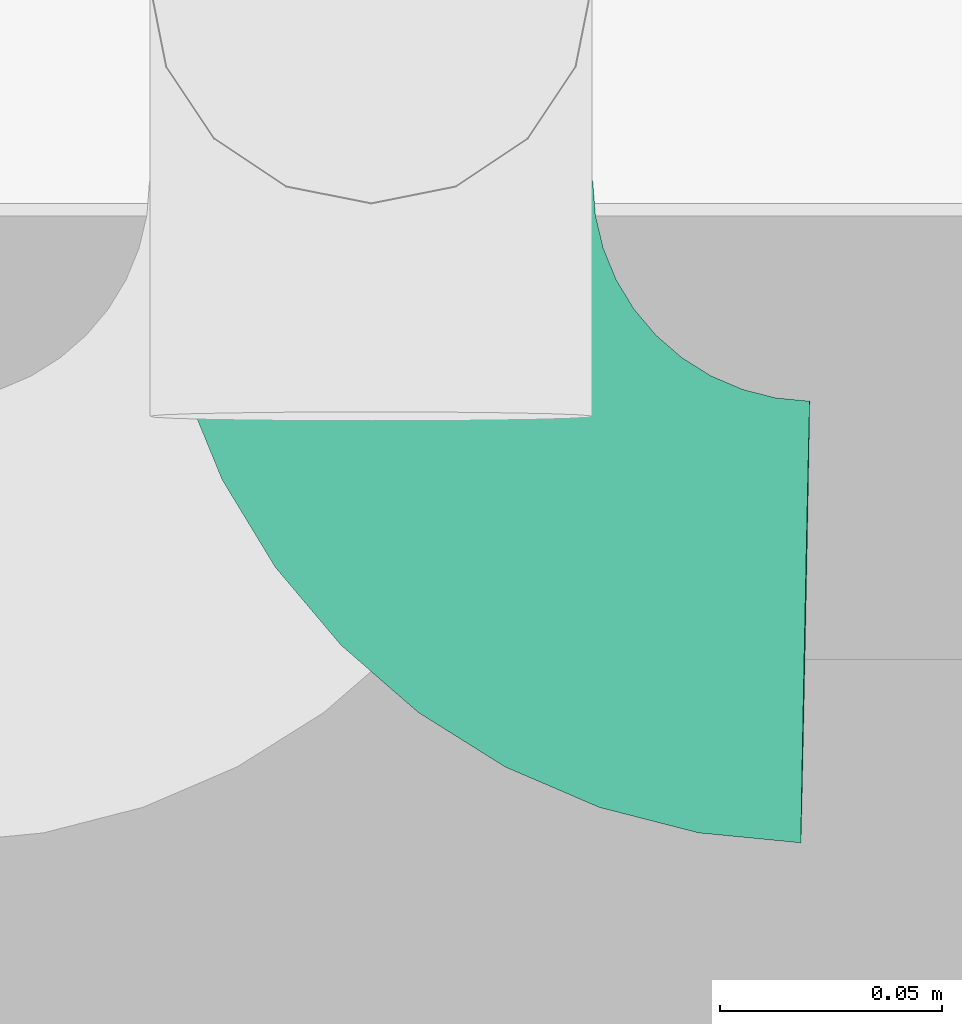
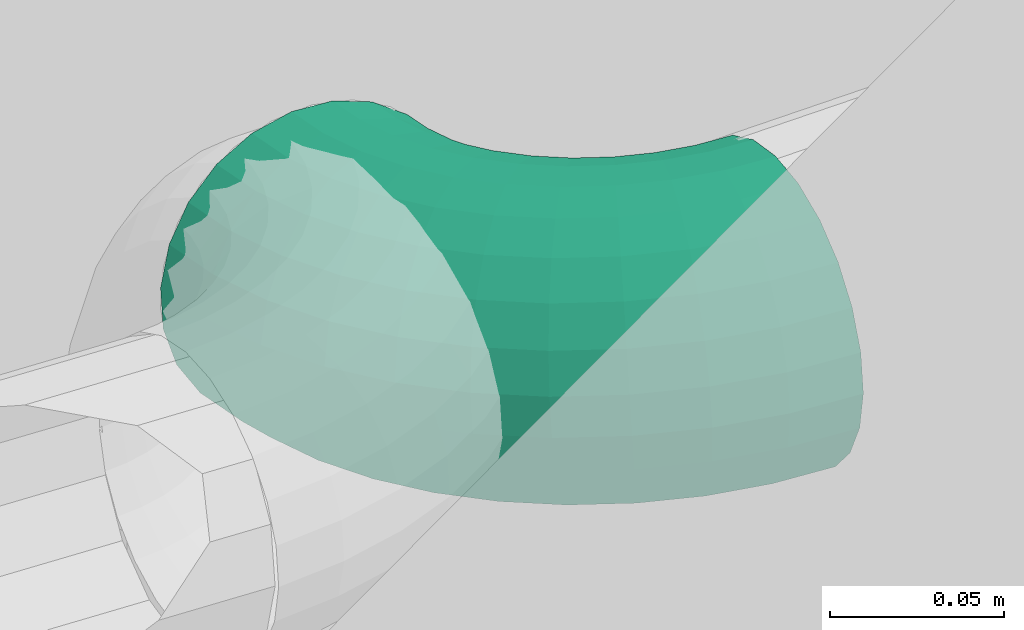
# One storey, part 99 of 106: 1 flow fitting.
"""IFC2X3 building model written with IfcOpenShell, lengths in metres."""

from ifc_helpers import new_model, entity, si_unit, converted_unit, derived_unit, money_unit, direction, frame, origin_with_axes, place, context, subcontext, project, spatial, open_shell, surface_model, material, type_object, element, save


model = new_model("IFC2X3")

# Units and contexts
model_context = context("Model", 3, precision=1e-05, world=origin_with_axes(), true_north=direction((0.0, 1.0)))
body_context = subcontext(model_context, "Body", "Model", "MODEL_VIEW", scale=1.0)
ifc_project = project(units=[si_unit("LENGTHUNIT", "METRE"), si_unit("AREAUNIT", "SQUARE_METRE"), si_unit("VOLUMEUNIT", "CUBIC_METRE"), si_unit("ABSORBEDDOSEUNIT", "GRAY"), si_unit("AMOUNTOFSUBSTANCEUNIT", "MOLE"), si_unit("DOSEEQUIVALENTUNIT", "SIEVERT"), si_unit("ELECTRICCAPACITANCEUNIT", "FARAD"), si_unit("ELECTRICCHARGEUNIT", "COULOMB"), si_unit("ELECTRICCONDUCTANCEUNIT", "SIEMENS"), si_unit("ELECTRICCURRENTUNIT", "AMPERE"), si_unit("ELECTRICRESISTANCEUNIT", "OHM"), si_unit("ELECTRICVOLTAGEUNIT", "VOLT"), si_unit("ENERGYUNIT", "JOULE"), si_unit("FORCEUNIT", "NEWTON"), si_unit("FREQUENCYUNIT", "HERTZ"), si_unit("ILLUMINANCEUNIT", "LUX"), si_unit("INDUCTANCEUNIT", "HENRY"), si_unit("LUMINOUSFLUXUNIT", "LUMEN"), si_unit("LUMINOUSINTENSITYUNIT", "CANDELA"), si_unit("MAGNETICFLUXDENSITYUNIT", "TESLA"), si_unit("MAGNETICFLUXUNIT", "WEBER"), si_unit("MASSUNIT", "GRAM"), converted_unit("PLANEANGLEUNIT", "degree", entity("IfcReal", 0.0174532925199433), si_unit("PLANEANGLEUNIT", "RADIAN"), dimensions=[0, 0, 0, 0, 0, 0, 0]), si_unit("POWERUNIT", "WATT"), si_unit("PRESSUREUNIT", "PASCAL"), si_unit("RADIOACTIVITYUNIT", "BECQUEREL"), si_unit("SOLIDANGLEUNIT", "STERADIAN"), si_unit("THERMODYNAMICTEMPERATUREUNIT", "KELVIN"), si_unit("TIMEUNIT", "SECOND"), derived_unit("ACCELERATIONUNIT", [(si_unit("LENGTHUNIT", "METRE"), 1), (si_unit("TIMEUNIT", "SECOND"), -2)]), derived_unit("ANGULARVELOCITYUNIT", [(converted_unit("PLANEANGLEUNIT", "degree", entity("IfcReal", 0.0174532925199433), si_unit("PLANEANGLEUNIT", "RADIAN"), dimensions=[0, 0, 0, 0, 0, 0, 0]), 1), (si_unit("TIMEUNIT", "SECOND"), -1)]), derived_unit("CURVATUREUNIT", [(converted_unit("PLANEANGLEUNIT", "degree", entity("IfcReal", 0.0174532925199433), si_unit("PLANEANGLEUNIT", "RADIAN"), dimensions=[0, 0, 0, 0, 0, 0, 0]), 1), (si_unit("LENGTHUNIT", "METRE"), -1)]), derived_unit("DYNAMICVISCOSITYUNIT", [(si_unit("PRESSUREUNIT", "PASCAL"), 1), (si_unit("TIMEUNIT", "SECOND"), 1)]), derived_unit("HEATFLUXDENSITYUNIT", [(si_unit("POWERUNIT", "WATT"), 1), (si_unit("LENGTHUNIT", "METRE"), -2)]), derived_unit("HEATINGVALUEUNIT", [(si_unit("ENERGYUNIT", "JOULE"), 1), (si_unit("MASSUNIT", "GRAM"), -1)]), derived_unit("INTEGERCOUNTRATEUNIT", [(si_unit("TIMEUNIT", "SECOND"), -1)]), derived_unit("IONCONCENTRATIONUNIT", [(si_unit("MASSUNIT", "GRAM"), 1), (si_unit("VOLUMEUNIT", "CUBIC_METRE"), -1)]), derived_unit("ISOTHERMALMOISTURECAPACITYUNIT", [(si_unit("VOLUMEUNIT", "CUBIC_METRE"), 1), (si_unit("MASSUNIT", "GRAM"), -1)]), derived_unit("KINEMATICVISCOSITYUNIT", [(si_unit("AREAUNIT", "SQUARE_METRE"), 1), (si_unit("TIMEUNIT", "SECOND"), -1)]), derived_unit("LINEARFORCEUNIT", [(si_unit("FORCEUNIT", "NEWTON"), 1), (si_unit("LENGTHUNIT", "METRE"), -1)]), derived_unit("LINEARMOMENTUNIT", [(si_unit("FORCEUNIT", "NEWTON"), 1), (si_unit("LENGTHUNIT", "METRE"), -1)]), derived_unit("LINEARSTIFFNESSUNIT", [(si_unit("FORCEUNIT", "NEWTON"), 1), (si_unit("LENGTHUNIT", "METRE"), -1)]), derived_unit("LINEARVELOCITYUNIT", [(si_unit("LENGTHUNIT", "METRE"), 1), (si_unit("TIMEUNIT", "SECOND"), -1)]), derived_unit("LUMINOUSINTENSITYDISTRIBUTIONUNIT", [(si_unit("LUMINOUSINTENSITYUNIT", "CANDELA"), 1), (si_unit("LUMINOUSFLUXUNIT", "LUMEN"), -1)]), derived_unit("MASSDENSITYUNIT", [(si_unit("MASSUNIT", "GRAM"), 1), (si_unit("VOLUMEUNIT", "CUBIC_METRE"), -1)]), derived_unit("MASSFLOWRATEUNIT", [(si_unit("MASSUNIT", "GRAM"), 1), (si_unit("TIMEUNIT", "SECOND"), -1)]), derived_unit("MASSPERLENGTHUNIT", [(si_unit("MASSUNIT", "GRAM"), 1), (si_unit("LENGTHUNIT", "METRE"), -1)]), derived_unit("MODULUSOFELASTICITYUNIT", [(si_unit("FORCEUNIT", "NEWTON"), 1), (si_unit("AREAUNIT", "SQUARE_METRE"), -1)]), derived_unit("MODULUSOFLINEARSUBGRADEREACTIONUNIT", [(si_unit("FORCEUNIT", "NEWTON"), 1), (si_unit("LENGTHUNIT", "METRE"), -2)]), derived_unit("MODULUSOFROTATIONALSUBGRADEREACTIONUNIT", [(si_unit("FORCEUNIT", "NEWTON"), 1), (si_unit("LENGTHUNIT", "METRE"), 1)]), derived_unit("MODULUSOFSUBGRADEREACTIONUNIT", [(si_unit("FORCEUNIT", "NEWTON"), 1), (si_unit("VOLUMEUNIT", "CUBIC_METRE"), -1)]), derived_unit("MOISTUREDIFFUSIVITYUNIT", [(si_unit("VOLUMEUNIT", "CUBIC_METRE"), 1), (si_unit("TIMEUNIT", "SECOND"), -1)]), derived_unit("MOLECULARWEIGHTUNIT", [(si_unit("MASSUNIT", "GRAM"), 1), (si_unit("AMOUNTOFSUBSTANCEUNIT", "MOLE"), -1)]), derived_unit("PLANARFORCEUNIT", [(si_unit("FORCEUNIT", "NEWTON"), 1), (si_unit("LENGTHUNIT", "METRE"), -2)]), derived_unit("ROTATIONALFREQUENCYUNIT", [(si_unit("TIMEUNIT", "SECOND"), -1)]), derived_unit("ROTATIONALMASSUNIT", [(si_unit("MASSUNIT", "GRAM"), 1), (si_unit("LENGTHUNIT", "METRE"), 2)]), derived_unit("ROTATIONALSTIFFNESSUNIT", [(si_unit("FORCEUNIT", "NEWTON"), 1), (si_unit("LENGTHUNIT", "METRE"), 1), (converted_unit("PLANEANGLEUNIT", "degree", entity("IfcReal", 0.0174532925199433), si_unit("PLANEANGLEUNIT", "RADIAN"), dimensions=[0, 0, 0, 0, 0, 0, 0]), -1)]), derived_unit("SECTIONAREAINTEGRALUNIT", [(si_unit("LENGTHUNIT", "METRE"), 5)]), derived_unit("SECTIONMODULUSUNIT", [(si_unit("LENGTHUNIT", "METRE"), 3)]), derived_unit("SHEARMODULUSUNIT", [(si_unit("FORCEUNIT", "NEWTON"), 1), (si_unit("AREAUNIT", "SQUARE_METRE"), -1)]), derived_unit("SOUNDPOWERUNIT", [(si_unit("ENERGYUNIT", "JOULE"), 1), (si_unit("TIMEUNIT", "SECOND"), -1)]), derived_unit("SPECIFICHEATCAPACITYUNIT", [(si_unit("FORCEUNIT", "NEWTON"), 1), (si_unit("MASSUNIT", "GRAM"), -1), (si_unit("THERMODYNAMICTEMPERATUREUNIT", "KELVIN"), -1)]), derived_unit("TEMPERATUREGRADIENTUNIT", [(si_unit("THERMODYNAMICTEMPERATUREUNIT", "KELVIN"), 1), (si_unit("LENGTHUNIT", "METRE"), -1)]), derived_unit("THERMALADMITTANCEUNIT", [(si_unit("POWERUNIT", "WATT"), 1), (si_unit("AREAUNIT", "SQUARE_METRE"), -1), (si_unit("THERMODYNAMICTEMPERATUREUNIT", "KELVIN"), -1)]), derived_unit("THERMALCONDUCTANCEUNIT", [(si_unit("POWERUNIT", "WATT"), 1), (si_unit("LENGTHUNIT", "METRE"), -1), (si_unit("THERMODYNAMICTEMPERATUREUNIT", "KELVIN"), -1)]), derived_unit("THERMALEXPANSIONCOEFFICIENTUNIT", [(si_unit("THERMODYNAMICTEMPERATUREUNIT", "KELVIN"), -1)]), derived_unit("THERMALRESISTANCEUNIT", [(si_unit("AREAUNIT", "SQUARE_METRE"), 1), (si_unit("POWERUNIT", "WATT"), -1)]), derived_unit("THERMALTRANSMITTANCEUNIT", [(si_unit("POWERUNIT", "WATT"), 1), (si_unit("AREAUNIT", "SQUARE_METRE"), -1), (si_unit("THERMODYNAMICTEMPERATUREUNIT", "KELVIN"), -1)]), derived_unit("TORQUEUNIT", [(si_unit("FORCEUNIT", "NEWTON"), 1), (si_unit("LENGTHUNIT", "METRE"), 1)]), derived_unit("VAPORPERMEABILITYUNIT", [(si_unit("MASSUNIT", "GRAM"), 1), (si_unit("TIMEUNIT", "SECOND"), -1)]), derived_unit("VOLUMETRICFLOWRATEUNIT", [(si_unit("VOLUMEUNIT", "CUBIC_METRE"), 1), (si_unit("TIMEUNIT", "SECOND"), -1)]), derived_unit("WARPINGCONSTANTUNIT", [(si_unit("LENGTHUNIT", "METRE"), 6)]), derived_unit("WARPINGMOMENTUNIT", [(si_unit("FORCEUNIT", "NEWTON"), 1), (si_unit("LENGTHUNIT", "METRE"), 2)]), money_unit("GBP")], contexts=[model_context])

# Site, building, storey
site_placement = place(None, origin_with_axes())
site = spatial("IfcSite", under=ifc_project, at=site_placement, Name="Site", CompositionType="ELEMENT")
building_placement = place(site_placement, origin_with_axes())
building = spatial("IfcBuilding", under=site, at=building_placement, Name="Building01", CompositionType="ELEMENT")
storey_placement = place(building_placement, origin_with_axes())
storey = spatial("IfcBuildingStorey", under=building, at=storey_placement, Name="GF", CompositionType="ELEMENT", Elevation=0.0)

# Flow fitting
ifc_material = material(Name="M_BSUK_ColdWater")
pipe_fitting_type = type_object("IfcPipeFittingType", Name="M-BmpElbow-DefaultElbow", PredefinedType="BEND")
flow_fitting_placement = place(storey_placement, frame((22.216022, 14.905103, 15.429205), z_axis=(-1.0, 0.0, 0.0), x_axis=(0.0, 0.99414865, -0.10802068)))
element("IfcFlowFitting", 1, at=flow_fitting_placement, inside=storey, type_object=pipe_fitting_type, material=ifc_material, Name="M-BmpElbow-DefaultElbow", ObjectType="M-BmpElbow-DefaultElbow", context=body_context, shape_type="SurfaceModel", body=[
    surface_model("IfcShellBasedSurfaceModel", [(-0.008009, -0.01349, -0.048768), (0.0, -0.01349, -0.048146), (0.0, 0.0, -0.05), (-0.007723, 0.0, -0.0506), (-0.015826, -0.01349, -0.05062), (-0.015261, 0.0, -0.052386), (-0.023264, -0.01349, -0.053657), (-0.022432, 0.0, -0.055314), (-0.030143, -0.01349, -0.057807), (-0.029065, 0.0, -0.059315), (-0.036298, -0.01349, -0.062969), (-0.035, 0.0, -0.064293), (-0.041582, -0.01349, -0.06902), (-0.040095, 0.0, -0.070127), (-0.045868, -0.01349, -0.075814), (-0.044228, 0.0, -0.076679), (-0.049054, -0.01349, -0.083189), (-0.0473, 0.0, -0.08379), (-0.051061, -0.01349, -0.090968), (-0.049236, 0.0, -0.091291), (-0.051844, -0.01349, -0.098963), (-0.04999, 0.0, -0.099), (-0.008847, -0.025979, -0.043408), (0.0, -0.025979, -0.042721), (-0.017482, -0.025979, -0.045454), (-0.025697, -0.025979, -0.048809), (-0.033296, -0.025979, -0.053392), (-0.040095, -0.025979, -0.059095), (-0.045932, -0.025979, -0.065779), (-0.050667, -0.025979, -0.073284), (-0.054185, -0.025979, -0.081431), (-0.056403, -0.025979, -0.090023), (-0.057268, -0.025979, -0.098855), (-0.010175, -0.036542, -0.034918), (0.0, -0.036542, -0.034128), (-0.020105, -0.036542, -0.037271), (-0.029553, -0.036542, -0.041129), (-0.038291, -0.036542, -0.0464), (-0.046111, -0.036542, -0.052958), (-0.052823, -0.036542, -0.060645), (-0.058268, -0.036542, -0.069276), (-0.062315, -0.036542, -0.078645), (-0.064865, -0.036542, -0.088526), (-0.065859, -0.036542, -0.098683), (-0.011893, -0.044394, -0.023927), (0.0, -0.044394, -0.023003), (-0.0235, -0.044394, -0.026677), (-0.034544, -0.044394, -0.031187), (-0.044758, -0.044394, -0.037348), (-0.053898, -0.044394, -0.045013), (-0.061744, -0.044394, -0.053998), (-0.068109, -0.044394, -0.064087), (-0.072838, -0.044394, -0.075038), (-0.07582, -0.044394, -0.086588), (-0.076981, -0.044394, -0.09846), (-0.013875, -0.048954, -0.011251), (0.0, -0.048954, -0.010173), (-0.027416, -0.048954, -0.014459), (-0.0403, -0.048954, -0.01972), (-0.052216, -0.048954, -0.026908), (-0.062879, -0.048954, -0.035851), (-0.072033, -0.048954, -0.046333), (-0.079458, -0.048954, -0.058103), (-0.084976, -0.048954, -0.070879), (-0.088454, -0.048954, -0.084353), (-0.089809, -0.048954, -0.098204), (-0.015973, -0.049883, 0.002171), (0.0, -0.049883, 0.003412), (-0.031562, -0.049883, -0.001522), (-0.046394, -0.049883, -0.007579), (-0.060113, -0.049883, -0.015854), (-0.072389, -0.049883, -0.026149), (-0.082927, -0.049883, -0.038216), (-0.091475, -0.049883, -0.051767), (-0.097827, -0.049883, -0.066475), (-0.101831, -0.049883, -0.081987), (-0.103391, -0.049883, -0.097932), (-0.018032, -0.047113, 0.015343), (0.0, -0.047113, 0.016744), (-0.035632, -0.047113, 0.011174), (-0.052376, -0.047113, 0.004336), (-0.067863, -0.047113, -0.005006), (-0.081721, -0.047113, -0.016628), (-0.093618, -0.047113, -0.030251), (-0.103268, -0.047113, -0.045548), (-0.110439, -0.047113, -0.062153), (-0.114959, -0.047113, -0.079665), (-0.116721, -0.047113, -0.097665), (-0.0199, -0.040848, 0.027288), (0.0, -0.040848, 0.028834), (-0.039322, -0.040848, 0.022687), (-0.0578, -0.040848, 0.015141), (-0.074891, -0.040848, 0.004831), (-0.090184, -0.040848, -0.007994), (-0.103313, -0.040848, -0.023028), (-0.113962, -0.040848, -0.039909), (-0.121876, -0.040848, -0.058233), (-0.126865, -0.040848, -0.077559), (-0.128808, -0.040848, -0.097424), (-0.021437, -0.031554, 0.03712), (0.0, -0.031554, 0.038786), (-0.042359, -0.031554, 0.032163), (-0.062264, -0.031554, 0.024035), (-0.080675, -0.031554, 0.012929), (-0.09715, -0.031554, -0.000887), (-0.111293, -0.031554, -0.017083), (-0.122765, -0.031554, -0.035268), (-0.13129, -0.031554, -0.055007), (-0.136664, -0.031554, -0.075826), (-0.138758, -0.031554, -0.097225), (-0.022529, -0.01992, 0.04411), (0.0, -0.01992, 0.045861), (-0.044518, -0.01992, 0.038901), (-0.065438, -0.01992, 0.030358), (-0.084788, -0.01992, 0.018686), (-0.102103, -0.01992, 0.004165), (-0.116966, -0.01992, -0.012856), (-0.129023, -0.01992, -0.031968), (-0.137983, -0.01992, -0.052713), (-0.143631, -0.01992, -0.074593), (-0.145831, -0.01992, -0.097083), (-0.023097, -0.006808, 0.04774), (0.0, -0.006808, 0.049534), (-0.045639, -0.006808, 0.042399), (-0.067087, -0.006808, 0.033641), (-0.086924, -0.006808, 0.021675), (-0.104674, -0.006808, 0.006789), (-0.119912, -0.006808, -0.010661), (-0.132273, -0.006808, -0.030254), (-0.141458, -0.006808, -0.051522), (-0.147248, -0.006808, -0.073953), (-0.149504, -0.006808, -0.09701), (-0.023097, 0.006808, 0.04774), (0.0, 0.006808, 0.049534), (-0.045639, 0.006808, 0.042399), (-0.067087, 0.006808, 0.033641), (-0.086924, 0.006808, 0.021675), (-0.104674, 0.006808, 0.006789), (-0.119912, 0.006808, -0.010661), (-0.132273, 0.006808, -0.030254), (-0.141458, 0.006808, -0.051522), (-0.147248, 0.006808, -0.073953), (-0.149504, 0.006808, -0.09701), (-0.022529, 0.01992, 0.04411), (0.0, 0.01992, 0.045861), (-0.044518, 0.01992, 0.038901), (-0.065438, 0.01992, 0.030358), (-0.084788, 0.01992, 0.018686), (-0.102103, 0.01992, 0.004165), (-0.116966, 0.01992, -0.012856), (-0.129023, 0.01992, -0.031968), (-0.137983, 0.01992, -0.052713), (-0.143631, 0.01992, -0.074593), (-0.145831, 0.01992, -0.097083), (-0.021437, 0.031554, 0.03712), (0.0, 0.031554, 0.038786), (-0.042359, 0.031554, 0.032163), (-0.062264, 0.031554, 0.024035), (-0.080675, 0.031554, 0.012929), (-0.09715, 0.031554, -0.000887), (-0.111293, 0.031554, -0.017083), (-0.122765, 0.031554, -0.035268), (-0.13129, 0.031554, -0.055007), (-0.136664, 0.031554, -0.075826), (-0.138758, 0.031554, -0.097225), (-0.0199, 0.040848, 0.027288), (0.0, 0.040848, 0.028834), (-0.039322, 0.040848, 0.022687), (-0.0578, 0.040848, 0.015141), (-0.074891, 0.040848, 0.004831), (-0.090184, 0.040848, -0.007994), (-0.103313, 0.040848, -0.023028), (-0.113962, 0.040848, -0.039909), (-0.121876, 0.040848, -0.058233), (-0.126865, 0.040848, -0.077559), (-0.128808, 0.040848, -0.097424), (-0.018032, 0.047113, 0.015343), (0.0, 0.047113, 0.016744), (-0.035632, 0.047113, 0.011174), (-0.052376, 0.047113, 0.004336), (-0.067863, 0.047113, -0.005006), (-0.081721, 0.047113, -0.016628), (-0.093618, 0.047113, -0.030251), (-0.103268, 0.047113, -0.045548), (-0.110439, 0.047113, -0.062153), (-0.114959, 0.047113, -0.079665), (-0.116721, 0.047113, -0.097665), (-0.015973, 0.049883, 0.002171), (0.0, 0.049883, 0.003412), (-0.031562, 0.049883, -0.001522), (-0.046394, 0.049883, -0.007579), (-0.060113, 0.049883, -0.015854), (-0.072389, 0.049883, -0.026149), (-0.082927, 0.049883, -0.038216), (-0.091475, 0.049883, -0.051767), (-0.097827, 0.049883, -0.066475), (-0.101831, 0.049883, -0.081987), (-0.103391, 0.049883, -0.097932), (-0.013875, 0.048954, -0.011251), (0.0, 0.048954, -0.010173), (-0.027416, 0.048954, -0.014459), (-0.0403, 0.048954, -0.01972), (-0.052216, 0.048954, -0.026908), (-0.062879, 0.048954, -0.035851), (-0.072033, 0.048954, -0.046333), (-0.079458, 0.048954, -0.058103), (-0.084976, 0.048954, -0.070879), (-0.088454, 0.048954, -0.084353), (-0.089809, 0.048954, -0.098204), (-0.011893, 0.044394, -0.023927), (0.0, 0.044394, -0.023003), (-0.0235, 0.044394, -0.026677), (-0.034544, 0.044394, -0.031187), (-0.044758, 0.044394, -0.037348), (-0.053898, 0.044394, -0.045013), (-0.061744, 0.044394, -0.053998), (-0.068109, 0.044394, -0.064087), (-0.072838, 0.044394, -0.075038), (-0.07582, 0.044394, -0.086588), (-0.076981, 0.044394, -0.09846), (-0.010175, 0.036542, -0.034918), (0.0, 0.036542, -0.034128), (-0.020105, 0.036542, -0.037271), (-0.029553, 0.036542, -0.041129), (-0.038291, 0.036542, -0.0464), (-0.046111, 0.036542, -0.052958), (-0.052823, 0.036542, -0.060645), (-0.058268, 0.036542, -0.069276), (-0.062315, 0.036542, -0.078645), (-0.064865, 0.036542, -0.088526), (-0.065859, 0.036542, -0.098683), (-0.008847, 0.025979, -0.043408), (0.0, 0.025979, -0.042721), (-0.017482, 0.025979, -0.045454), (-0.025697, 0.025979, -0.048809), (-0.033296, 0.025979, -0.053392), (-0.040095, 0.025979, -0.059095), (-0.045932, 0.025979, -0.065779), (-0.050667, 0.025979, -0.073284), (-0.054185, 0.025979, -0.081431), (-0.056403, 0.025979, -0.090023), (-0.057268, 0.025979, -0.098855), (-0.008009, 0.01349, -0.048768), (0.0, 0.01349, -0.048146), (-0.015826, 0.01349, -0.05062), (-0.023264, 0.01349, -0.053657), (-0.030143, 0.01349, -0.057807), (-0.036298, 0.01349, -0.062969), (-0.041582, 0.01349, -0.06902), (-0.045868, 0.01349, -0.075814), (-0.049054, 0.01349, -0.083189), (-0.051061, 0.01349, -0.090968), (-0.051844, 0.01349, -0.098963)], [open_shell([[[0, 1, 2, 3]], [[4, 0, 3, 5]], [[6, 4, 5, 7]], [[8, 6, 7, 9]], [[10, 8, 9, 11]], [[12, 10, 11, 13]], [[14, 12, 13, 15]], [[16, 14, 15, 17]], [[18, 16, 17, 19]], [[20, 18, 19, 21]], [[22, 23, 1, 0]], [[24, 22, 0, 4]], [[25, 24, 4, 6]], [[26, 25, 6, 8]], [[27, 26, 8, 10]], [[28, 27, 10, 12]], [[29, 28, 12, 14]], [[30, 29, 14, 16]], [[31, 30, 16, 18]], [[32, 31, 18, 20]], [[33, 34, 23, 22]], [[35, 33, 22, 24]], [[36, 35, 24, 25]], [[37, 36, 25, 26]], [[38, 37, 26, 27]], [[39, 38, 27, 28]], [[40, 39, 28, 29]], [[41, 40, 29, 30]], [[42, 41, 30, 31]], [[43, 42, 31, 32]], [[44, 45, 34, 33]], [[46, 44, 33, 35]], [[47, 46, 35, 36]], [[48, 47, 36, 37]], [[49, 48, 37, 38]], [[50, 49, 38, 39]], [[51, 50, 39, 40]], [[52, 51, 40, 41]], [[53, 52, 41, 42]], [[54, 53, 42, 43]], [[55, 56, 45, 44]], [[57, 55, 44, 46]], [[58, 57, 46, 47]], [[59, 58, 47, 48]], [[60, 59, 48, 49]], [[61, 60, 49, 50]], [[62, 61, 50, 51]], [[63, 62, 51, 52]], [[64, 63, 52, 53]], [[65, 64, 53, 54]], [[66, 67, 56, 55]], [[68, 66, 55, 57]], [[69, 68, 57, 58]], [[70, 69, 58, 59]], [[71, 70, 59, 60]], [[72, 71, 60, 61]], [[73, 72, 61, 62]], [[74, 73, 62, 63]], [[75, 74, 63, 64]], [[76, 75, 64, 65]], [[77, 78, 67, 66]], [[79, 77, 66, 68]], [[80, 79, 68, 69]], [[81, 80, 69, 70]], [[82, 81, 70, 71]], [[83, 82, 71, 72]], [[84, 83, 72, 73]], [[85, 84, 73, 74]], [[86, 85, 74, 75]], [[87, 86, 75, 76]], [[88, 89, 78, 77]], [[90, 88, 77, 79]], [[91, 90, 79, 80]], [[92, 91, 80, 81]], [[93, 92, 81, 82]], [[94, 93, 82, 83]], [[95, 94, 83, 84]], [[96, 95, 84, 85]], [[97, 96, 85, 86]], [[98, 97, 86, 87]], [[99, 100, 89, 88]], [[101, 99, 88, 90]], [[102, 101, 90, 91]], [[103, 102, 91, 92]], [[104, 103, 92, 93]], [[105, 104, 93, 94]], [[106, 105, 94, 95]], [[107, 106, 95, 96]], [[108, 107, 96, 97]], [[109, 108, 97, 98]], [[110, 111, 100, 99]], [[112, 110, 99, 101]], [[113, 112, 101, 102]], [[114, 113, 102, 103]], [[115, 114, 103, 104]], [[116, 115, 104, 105]], [[117, 116, 105, 106]], [[118, 117, 106, 107]], [[119, 118, 107, 108]], [[120, 119, 108, 109]], [[121, 122, 111, 110]], [[123, 121, 110, 112]], [[124, 123, 112, 113]], [[125, 124, 113, 114]], [[126, 125, 114, 115]], [[127, 126, 115, 116]], [[128, 127, 116, 117]], [[129, 128, 117, 118]], [[130, 129, 118, 119]], [[131, 130, 119, 120]], [[132, 133, 122, 121]], [[134, 132, 121, 123]], [[135, 134, 123, 124]], [[136, 135, 124, 125]], [[137, 136, 125, 126]], [[138, 137, 126, 127]], [[139, 138, 127, 128]], [[140, 139, 128, 129]], [[141, 140, 129, 130]], [[142, 141, 130, 131]], [[143, 144, 133, 132]], [[145, 143, 132, 134]], [[146, 145, 134, 135]], [[147, 146, 135, 136]], [[148, 147, 136, 137]], [[149, 148, 137, 138]], [[150, 149, 138, 139]], [[151, 150, 139, 140]], [[152, 151, 140, 141]], [[153, 152, 141, 142]], [[154, 155, 144, 143]], [[156, 154, 143, 145]], [[157, 156, 145, 146]], [[158, 157, 146, 147]], [[159, 158, 147, 148]], [[160, 159, 148, 149]], [[161, 160, 149, 150]], [[162, 161, 150, 151]], [[163, 162, 151, 152]], [[164, 163, 152, 153]], [[165, 166, 155, 154]], [[167, 165, 154, 156]], [[168, 167, 156, 157]], [[169, 168, 157, 158]], [[170, 169, 158, 159]], [[171, 170, 159, 160]], [[172, 171, 160, 161]], [[173, 172, 161, 162]], [[174, 173, 162, 163]], [[175, 174, 163, 164]], [[176, 177, 166, 165]], [[178, 176, 165, 167]], [[179, 178, 167, 168]], [[180, 179, 168, 169]], [[181, 180, 169, 170]], [[182, 181, 170, 171]], [[183, 182, 171, 172]], [[184, 183, 172, 173]], [[185, 184, 173, 174]], [[186, 185, 174, 175]], [[187, 188, 177, 176]], [[189, 187, 176, 178]], [[190, 189, 178, 179]], [[191, 190, 179, 180]], [[192, 191, 180, 181]], [[193, 192, 181, 182]], [[194, 193, 182, 183]], [[195, 194, 183, 184]], [[196, 195, 184, 185]], [[197, 196, 185, 186]], [[198, 199, 188, 187]], [[200, 198, 187, 189]], [[201, 200, 189, 190]], [[202, 201, 190, 191]], [[203, 202, 191, 192]], [[204, 203, 192, 193]], [[205, 204, 193, 194]], [[206, 205, 194, 195]], [[207, 206, 195, 196]], [[208, 207, 196, 197]], [[209, 210, 199, 198]], [[211, 209, 198, 200]], [[212, 211, 200, 201]], [[213, 212, 201, 202]], [[214, 213, 202, 203]], [[215, 214, 203, 204]], [[216, 215, 204, 205]], [[217, 216, 205, 206]], [[218, 217, 206, 207]], [[219, 218, 207, 208]], [[220, 221, 210, 209]], [[222, 220, 209, 211]], [[223, 222, 211, 212]], [[224, 223, 212, 213]], [[225, 224, 213, 214]], [[226, 225, 214, 215]], [[227, 226, 215, 216]], [[228, 227, 216, 217]], [[229, 228, 217, 218]], [[230, 229, 218, 219]], [[231, 232, 221, 220]], [[233, 231, 220, 222]], [[234, 233, 222, 223]], [[235, 234, 223, 224]], [[236, 235, 224, 225]], [[237, 236, 225, 226]], [[238, 237, 226, 227]], [[239, 238, 227, 228]], [[240, 239, 228, 229]], [[241, 240, 229, 230]], [[242, 243, 232, 231]], [[244, 242, 231, 233]], [[245, 244, 233, 234]], [[246, 245, 234, 235]], [[247, 246, 235, 236]], [[248, 247, 236, 237]], [[249, 248, 237, 238]], [[250, 249, 238, 239]], [[251, 250, 239, 240]], [[252, 251, 240, 241]], [[3, 2, 243, 242]], [[5, 3, 242, 244]], [[7, 5, 244, 245]], [[9, 7, 245, 246]], [[11, 9, 246, 247]], [[13, 11, 247, 248]], [[15, 13, 248, 249]], [[17, 15, 249, 250]], [[19, 17, 250, 251]], [[21, 19, 251, 252]]])]),
])

save(model, "model.ifc")
